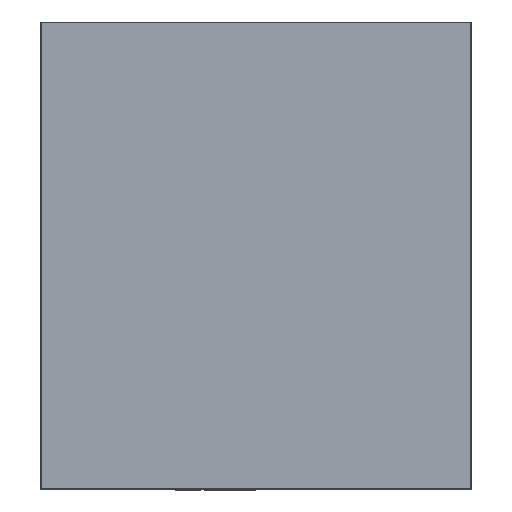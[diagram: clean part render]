
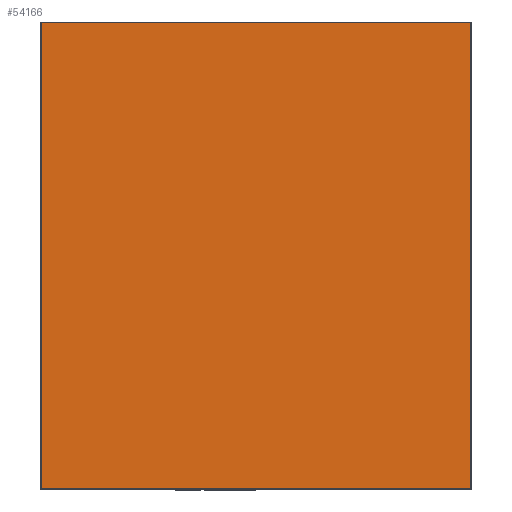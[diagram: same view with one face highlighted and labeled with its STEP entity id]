
A CAD part, top view. The second image highlights one B-rep face of the part: STEP entity #54166.
In plain terms, the highlighted planar face has unit normal (0, 0, 1).
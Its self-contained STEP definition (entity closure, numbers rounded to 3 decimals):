
#2547=PLANE('',#57611);
#11851=ORIENTED_EDGE('',*,*,#24300,.T.);
#11852=ORIENTED_EDGE('',*,*,#24301,.T.);
#11853=ORIENTED_EDGE('',*,*,#24302,.T.);
#11854=ORIENTED_EDGE('',*,*,#24303,.T.);
#24300=EDGE_CURVE('',#31112,#31087,#37076,.T.);
#24301=EDGE_CURVE('',#31087,#31102,#37077,.T.);
#24302=EDGE_CURVE('',#31102,#31119,#37078,.T.);
#24303=EDGE_CURVE('',#31119,#31112,#37079,.T.);
#31087=VERTEX_POINT('',#80606);
#31102=VERTEX_POINT('',#80644);
#31112=VERTEX_POINT('',#80671);
#31119=VERTEX_POINT('',#80685);
#37076=LINE('',#80709,#42587);
#37077=LINE('',#80710,#42588);
#37078=LINE('',#80711,#42589);
#37079=LINE('',#80712,#42590);
#42587=VECTOR('',#66358,1000.);
#42588=VECTOR('',#66359,1000.);
#42589=VECTOR('',#66360,1000.);
#42590=VECTOR('',#66361,1000.);
#46928=EDGE_LOOP('',(#11851,#11852,#11853,#11854));
#50577=FACE_BOUND('',#46928,.T.);
#54166=ADVANCED_FACE('',(#50577),#2547,.T.);
#57611=AXIS2_PLACEMENT_3D('',#80708,#66356,#66357);
#66356=DIRECTION('',(0.,0.,1.));
#66357=DIRECTION('',(1.,0.,0.));
#66358=DIRECTION('',(0.,-1.,0.));
#66359=DIRECTION('',(1.,0.,0.));
#66360=DIRECTION('',(0.,1.,0.));
#66361=DIRECTION('',(-1.,0.,0.));
#80606=CARTESIAN_POINT('',(-255.9,-277.55,0.7));
#80644=CARTESIAN_POINT('',(255.9,-277.55,0.7));
#80671=CARTESIAN_POINT('',(-255.9,277.55,0.7));
#80685=CARTESIAN_POINT('',(255.9,277.55,0.7));
#80708=CARTESIAN_POINT('',(0.,0.,0.7));
#80709=CARTESIAN_POINT('',(-255.9,277.55,0.7));
#80710=CARTESIAN_POINT('',(-255.9,-277.55,0.7));
#80711=CARTESIAN_POINT('',(255.9,-277.55,0.7));
#80712=CARTESIAN_POINT('',(255.9,277.55,0.7));
